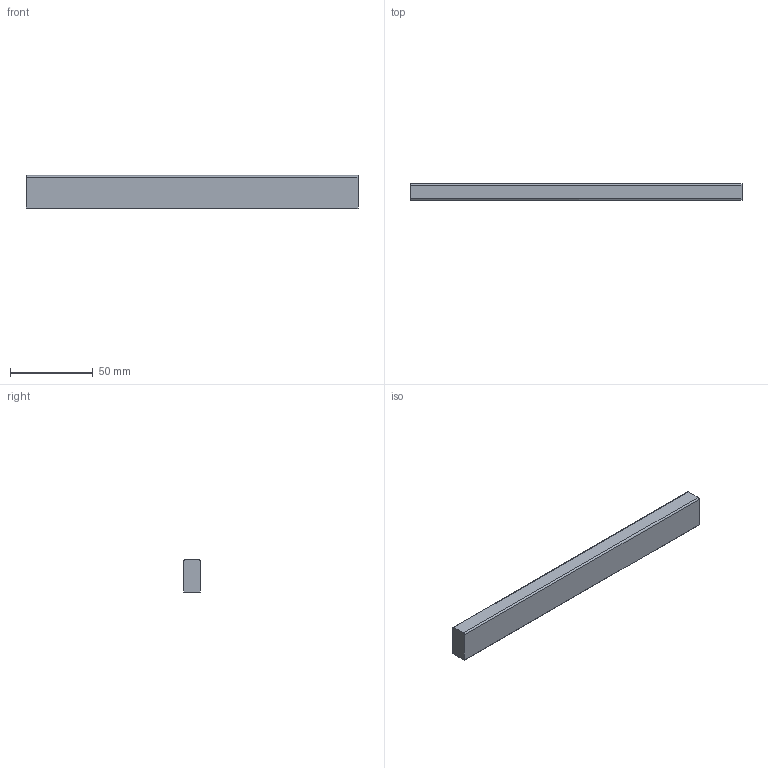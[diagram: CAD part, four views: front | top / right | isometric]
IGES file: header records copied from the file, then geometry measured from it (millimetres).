
Start section: C
Global section: file name: 8302-60.igs; native system: By Siemens PLM Incorporated; preprocessor: XPlus GENERIC/IGES 16.0.42; author: Author; organization: Title; date: 20200903.154026; units: millimetre
Bounding box: 200 x 10 x 19.9 mm (x, y, z)
Surface area: 12486.7 mm2 (no closed solid volume)
Topology: 0 solids, 0 shells, 21 faces, 114 edges, 114 vertices
Faces by surface type: bspline 21
